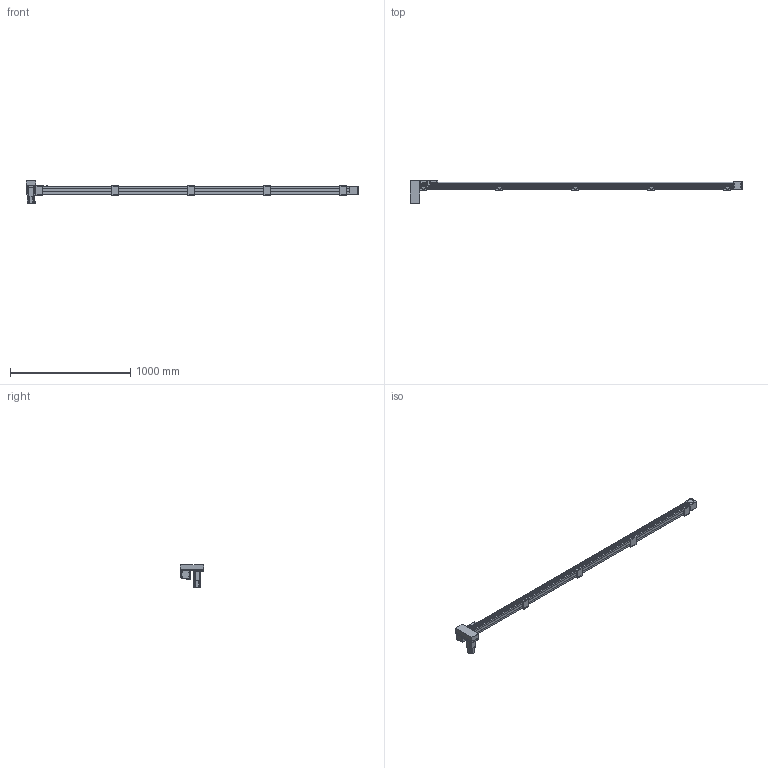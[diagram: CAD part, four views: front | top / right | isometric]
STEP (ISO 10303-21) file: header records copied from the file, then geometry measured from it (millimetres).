
FILE_DESCRIPTION(/* description */ ('STEP AP214'),/* implementation_level */ '2;1');
FILE_NAME(/* name */ 'SK60-P13-S2450-RD-T40-C1-N(0)',/* time_stamp */ '2023-04-06T04:56:59+02:00',/* author */ ('License CC BY-ND 4.0'),/* organization */ ('CADENAS'),/* preprocessor_version */ 'ST-DEVELOPER v19.3',/* originating_system */ 'PARTsolutions',/* authorisation */ ' ');
FILE_SCHEMA (('AUTOMOTIVE_DESIGN {1 0 10303 214 3 1 1}'));
Length unit declared in the file: millimetre
Products named in the file (10): SK60-P13-S2450-RD-T40-C1-N(0); PSC140-sensor; SK60-S450_seat; SK60-S450-BL-C1_slider; SK60_body3; SK60_body6; SK60-BL_body2; T40-p1; SK60-RD_fb; SK60-S2450-RD-C1_body
Assembly tree (19 placements, depth 2):
  SK60-P13-S2450-RD-T40-C1-N(0)
    PSC140-sensor  x3
    SK60-S450_seat  x5
    SK60-S450-BL-C1_slider
    SK60_body3  x3
    SK60_body6  x2
    SK60-BL_body2  x2
    T40-p1
    SK60-RD_fb
    SK60-S2450-RD-C1_body
Bounding box: 2755.5 x 199 x 189.7 mm (x, y, z)
Volume: 10528687.3 mm3; surface area: 1239149.6 mm2
Topology: 19 solids, 19 shells, 942 faces, 2342 edges, 1541 vertices
Faces by surface type: plane 596, cylinder 310, cone 34, torus 2
Full cylindrical faces by diameter (mm): 2.8 x3, 3.3 x4, 4 x2, 4.5 x30, 4.6 x3, 4.917 x28, 5 x6, 5.478 x4, 5.5 x31, 6.5 x10, 7 x2, 8 x4, 8.5 x4, 9.988 x4, 10 x20, 14 x1, 47 x3, 50 x2
Entity records: 18679 total; most frequent: DIRECTION 3190, CARTESIAN_POINT 3153, ORIENTED_EDGE 2940, EDGE_CURVE 1470, AXIS2_PLACEMENT_3D 1071, LINE 1048, VECTOR 1048, VERTEX_POINT 1034
